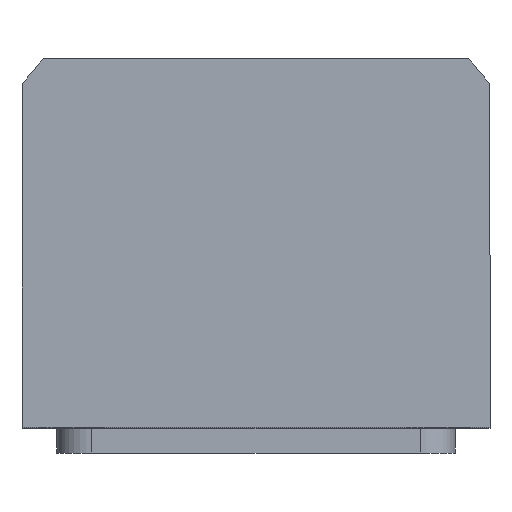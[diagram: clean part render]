
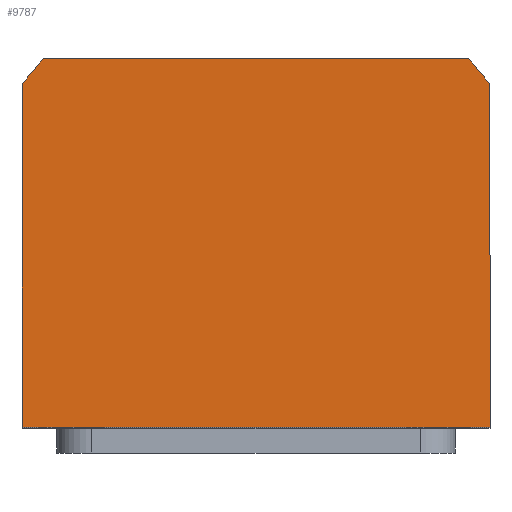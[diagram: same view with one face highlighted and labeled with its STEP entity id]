
A CAD part, top view. The second image highlights one B-rep face of the part: STEP entity #9787.
In plain terms, the highlighted planar face has unit normal (0, 0, 1).
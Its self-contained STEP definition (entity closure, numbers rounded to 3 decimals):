
#104 = ORIENTED_EDGE ( 'NONE', *, *, #7799, .T. ) ;
#585 = CARTESIAN_POINT ( 'NONE',  ( -47., -34., 70. ) ) ;
#1215 = ORIENTED_EDGE ( 'NONE', *, *, #8482, .T. ) ;
#1378 = LINE ( 'NONE', #5020, #1907 ) ;
#1698 = DIRECTION ( 'NONE',  ( 0., 1., 0. ) ) ;
#1756 = CARTESIAN_POINT ( 'NONE',  ( 47., 34.832, 70. ) ) ;
#1881 = CARTESIAN_POINT ( 'NONE',  ( -42.688, 40., 70. ) ) ;
#1907 = VECTOR ( 'NONE', #3740, 1000. ) ;
#2056 = CARTESIAN_POINT ( 'NONE',  ( 47., -34., 70. ) ) ;
#2088 = VERTEX_POINT ( 'NONE', #13424 ) ;
#2554 = CARTESIAN_POINT ( 'NONE',  ( -42.688, 40., 70. ) ) ;
#3180 = EDGE_LOOP ( 'NONE', ( #6730, #4797, #1215, #3579, #104, #12681 ) ) ;
#3579 = ORIENTED_EDGE ( 'NONE', *, *, #13586, .T. ) ;
#3740 = DIRECTION ( 'NONE',  ( 1., 0., 0. ) ) ;
#3865 = VERTEX_POINT ( 'NONE', #2056 ) ;
#4305 = CARTESIAN_POINT ( 'NONE',  ( -47., -34., 70. ) ) ;
#4660 = VECTOR ( 'NONE', #13011, 1000. ) ;
#4674 = EDGE_CURVE ( 'NONE', #13480, #6693, #10939, .T. ) ;
#4797 = ORIENTED_EDGE ( 'NONE', *, *, #10580, .T. ) ;
#5020 = CARTESIAN_POINT ( 'NONE',  ( 47., -34., 70. ) ) ;
#5530 = CARTESIAN_POINT ( 'NONE',  ( 0., 0., 70. ) ) ;
#5672 = DIRECTION ( 'NONE',  ( 1., 0., 0. ) ) ;
#5725 = CARTESIAN_POINT ( 'NONE',  ( 0., 0., 70. ) ) ;
#6693 = VERTEX_POINT ( 'NONE', #585 ) ;
#6704 = AXIS2_PLACEMENT_3D ( 'NONE', #5725, #14921, #5672 ) ;
#6730 = ORIENTED_EDGE ( 'NONE', *, *, #13112, .T. ) ;
#7170 = DIRECTION ( 'NONE',  ( 1., 0., 0. ) ) ;
#7193 = LINE ( 'NONE', #1756, #10087 ) ;
#7309 = AXIS2_PLACEMENT_3D ( 'NONE', #13043, #12074, #7170 ) ;
#7799 = EDGE_CURVE ( 'NONE', #8791, #13480, #13373, .T. ) ;
#8482 = EDGE_CURVE ( 'NONE', #10865, #2088, #10262, .T. ) ;
#8791 = VERTEX_POINT ( 'NONE', #1881 ) ;
#9787 = ADVANCED_FACE ( 'NONE', ( #14483 ), #13806, .T. ) ;
#10087 = VECTOR ( 'NONE', #1698, 1000. ) ;
#10262 = CIRCLE ( 'NONE', #7309, 58.5 ) ;
#10359 = DIRECTION ( 'NONE',  ( 0., 0., 1. ) ) ;
#10377 = DIRECTION ( 'NONE',  ( 0., -1., 0. ) ) ;
#10580 = EDGE_CURVE ( 'NONE', #3865, #10865, #7193, .T. ) ;
#10865 = VERTEX_POINT ( 'NONE', #14731 ) ;
#10939 = LINE ( 'NONE', #4305, #12048 ) ;
#11996 = AXIS2_PLACEMENT_3D ( 'NONE', #5530, #10359, #15003 ) ;
#12048 = VECTOR ( 'NONE', #10377, 1000. ) ;
#12074 = DIRECTION ( 'NONE',  ( 0., 0., 1. ) ) ;
#12145 = LINE ( 'NONE', #2554, #4660 ) ;
#12681 = ORIENTED_EDGE ( 'NONE', *, *, #4674, .T. ) ;
#13011 = DIRECTION ( 'NONE',  ( -1., 0., 0. ) ) ;
#13043 = CARTESIAN_POINT ( 'NONE',  ( 0., 0., 70. ) ) ;
#13112 = EDGE_CURVE ( 'NONE', #6693, #3865, #1378, .T. ) ;
#13373 = CIRCLE ( 'NONE', #11996, 58.5 ) ;
#13424 = CARTESIAN_POINT ( 'NONE',  ( 42.688, 40., 70. ) ) ;
#13480 = VERTEX_POINT ( 'NONE', #14127 ) ;
#13586 = EDGE_CURVE ( 'NONE', #2088, #8791, #12145, .T. ) ;
#13806 = PLANE ( 'NONE',  #6704 ) ;
#14127 = CARTESIAN_POINT ( 'NONE',  ( -47., 34.832, 70. ) ) ;
#14483 = FACE_OUTER_BOUND ( 'NONE', #3180, .T. ) ;
#14731 = CARTESIAN_POINT ( 'NONE',  ( 47., 34.832, 70. ) ) ;
#14921 = DIRECTION ( 'NONE',  ( 0., 0., 1. ) ) ;
#15003 = DIRECTION ( 'NONE',  ( 1., 0., 0. ) ) ;
